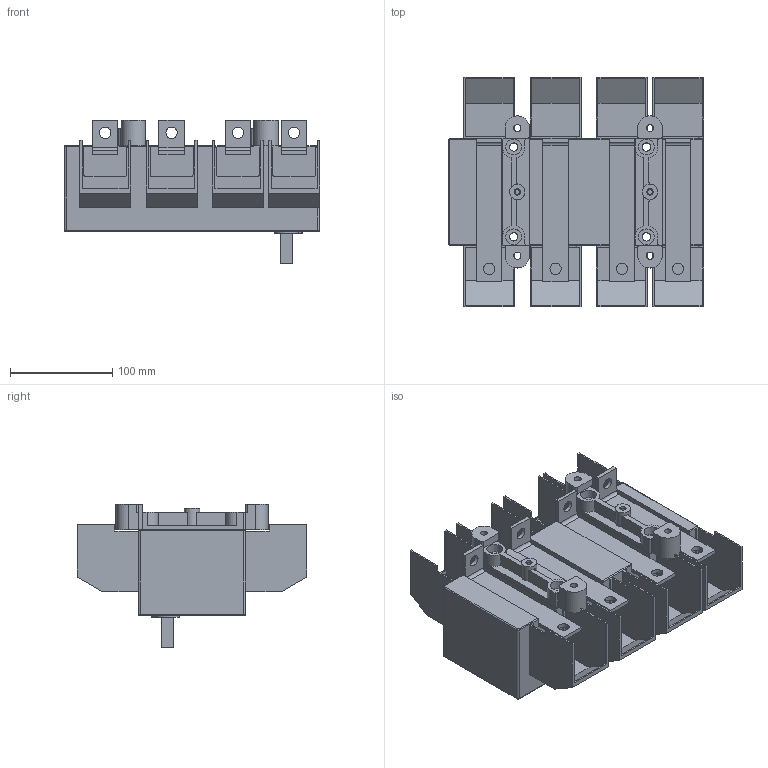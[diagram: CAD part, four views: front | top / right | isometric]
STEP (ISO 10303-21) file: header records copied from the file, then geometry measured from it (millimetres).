
FILE_DESCRIPTION(/* description */ (''),/* implementation_level */ '2;1');
FILE_NAME(/* name */ 'RA400 P3 NB z oslona zaciskow.stp',/* time_stamp */ '2021-08-18T14:21:07+02:00',/* author */ (''),/* organization */ (''),/* preprocessor_version */ 'ST-DEVELOPER v18.1',/* originating_system */ 'SIEMENS PLM Software NX 1965',/* authorisation */ '');
FILE_SCHEMA (('AUTOMOTIVE_DESIGN { 1 0 10303 214 3 1 1 1 }'));
Length unit declared in the file: millimetre
Products named in the file (1): RA400 P3 NB z oslona zaciskow_stp
Bounding box: 250 x 225 x 141 mm (x, y, z)
Volume: 2386380.7 mm3; surface area: 334482.6 mm2
Topology: 1 solids, 1 shells, 442 faces, 1214 edges, 794 vertices
Faces by surface type: plane 322, cylinder 112, torus 5, bspline 3
Full cylindrical faces by diameter (mm): 4.8 x2, 6.2 x2, 7 x4, 8.2 x4, 11 x8, 14 x4, 15 x2, 15.5 x4
Entity records: 13869 total; most frequent: CARTESIAN_POINT 2480, ORIENTED_EDGE 2360, DIRECTION 2304, EDGE_CURVE 1180, LINE 932, VECTOR 932, VERTEX_POINT 790, AXIS2_PLACEMENT_3D 686
